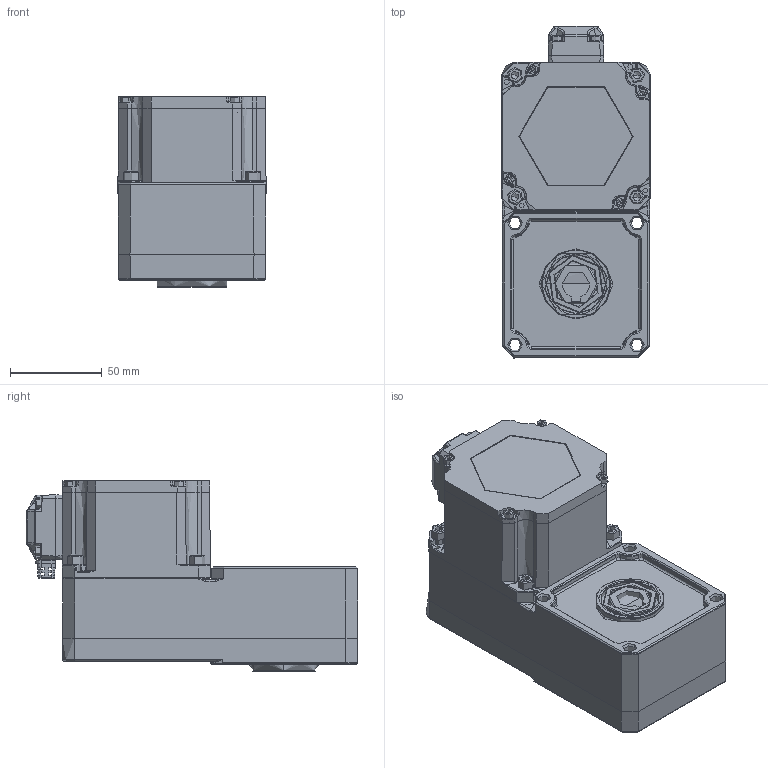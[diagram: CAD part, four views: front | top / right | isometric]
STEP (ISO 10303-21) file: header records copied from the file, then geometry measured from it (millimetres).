
FILE_DESCRIPTION (( 'STEP AP203' ), '1' );
FILE_NAME ('4GU100L2×°Åä.STEP', '2023-10-06T02:04:56', ( 'Owner' ), ( 'Organization' ), 'SwSTEP 2.0', 'SolidWorks 2019', '' );
FILE_SCHEMA (( 'CONFIG_CONTROL_DESIGN' ));
Length unit declared in the file: millimetre
Products named in the file (29): _____X2_52079664_X0_-_X2_62C94F-779.stp^____ADMI242897E1RCCY_ASM.stp___________________.stp____________________80K2______(2)_80K2______.STEP; hexagon socket head cap screws gb_GB_FASTENER_SCREWS_HSHCS M4X16-N; _____X2_52079664_X0_-_X2_62C94F-775.stp^____ADMI242897E1RCCY_ASM.stp___________________.stp____________________80K2______(2)_80K2______.STEP; 諾陑; 80 K2______________^80K2______(2)_80K2______.STEP; 4GUL2-505-001m#眊裔; __________________^80K2______(2)_80K2______.STEP; ____CHAMFER1-774.stp^____ADMI242897E1RCCY_ASM.stp___________________.stp____________________80K2______(2)_80K2______.STEP; ____ADMI242897E1RCCY_ASM.stp^__________________.stp____________________80K2______(2)_80K2______.STEP; ____CHAMFER1-771.stp^____ADMI242897E1RCCY_ASM.stp___________________.stp____________________80K2______(2)_80K2______.STEP; ____CHAMFER1-770.stp^____ADMI242897E1RCCY_ASM.stp___________________.stp____________________80K2______(2)_80K2______.STEP; 蚾饜极7; __________________.stp^___________________80K2______(2)_80K2______.STEP; 80 K2____________^80K2______(2)_80K2______.STEP; ____MANIFOLD_SOLID_BREP_781.stp^____ADMI242897E1RCCY_ASM.stp___________________.stp____________________80K2______(2)_80K2______.STEP; ____CHAMFER1-773.stp^____ADMI242897E1RCCY_ASM.stp___________________.stp____________________80K2______(2)_80K2______.STEP; _____X2_52079664_X0_-_X2_62C94F-778.stp^____ADMI242897E1RCCY_ASM.stp___________________.stp____________________80K2______(2)_80K2______.STEP; hexagon socket head cap screws gb_GB_FASTENER_SCREWS_HSHCS M3X6-N^80K2______(2)_80K2______.STEP; _____X2_52079664_X0_-_X2_62C94F-777.stp^____ADMI242897E1RCCY_ASM.stp___________________.stp____________________80K2______(2)_80K2______.STEP; 80K2蚾饜极(2).STEP; ____CHAMFER1-772.stp^____ADMI242897E1RCCY_ASM.stp___________________.stp____________________80K2______(2)_80K2______.STEP; 80K2______(2)^80K2______.STEP; 4GU100L2蚾饜; 4GUL2-504-001m#眊极; ____CHAMFER1-776.stp^____ADMI242897E1RCCY_ASM.stp___________________.stp____________________80K2______(2)_80K2______.STEP; ____1.stp^__________________.stp____________________80K2______(2)_80K2______.STEP; 蚐猾; ____MANIFOLD_SOLID_BREP_780.stp^____ADMI242897E1RCCY_ASM.stp___________________.stp____________________80K2______(2)_80K2______.STEP; hexagon socket head cap screws gb_GB_FASTENER_SCREWS_HSHCS M5X16-N
Assembly tree (40 placements, depth 7):
  4GU100L2蚾饜
    80K2蚾饜极(2).STEP
      80K2______(2)^80K2______.STEP
        __________________^80K2______(2)_80K2______.STEP
          __________________.stp^___________________80K2______(2)_80K2______.STEP
            ____ADMI242897E1RCCY_ASM.stp^__________________.stp____________________80K2______(2)_80K2______.STEP
              ____CHAMFER1-770.stp^____ADMI242897E1RCCY_ASM.stp___________________.stp____________________80K2______(2)_80K2______.STEP
              ____CHAMFER1-771.stp^____ADMI242897E1RCCY_ASM.stp___________________.stp____________________80K2______(2)_80K2______.STEP
              ____CHAMFER1-772.stp^____ADMI242897E1RCCY_ASM.stp___________________.stp____________________80K2______(2)_80K2______.STEP
              ____CHAMFER1-773.stp^____ADMI242897E1RCCY_ASM.stp___________________.stp____________________80K2______(2)_80K2______.STEP
              ____CHAMFER1-774.stp^____ADMI242897E1RCCY_ASM.stp___________________.stp____________________80K2______(2)_80K2______.STEP
              _____X2_52079664_X0_-_X2_62C94F-775.stp^____ADMI242897E1RCCY_ASM.stp___________________.stp____________________80K2______(2)_80K2______.STEP
              ____CHAMFER1-776.stp^____ADMI242897E1RCCY_ASM.stp___________________.stp____________________80K2______(2)_80K2______.STEP
              _____X2_52079664_X0_-_X2_62C94F-777.stp^____ADMI242897E1RCCY_ASM.stp___________________.stp____________________80K2______(2)_80K2______.STEP
              _____X2_52079664_X0_-_X2_62C94F-778.stp^____ADMI242897E1RCCY_ASM.stp___________________.stp____________________80K2______(2)_80K2______.STEP
              _____X2_52079664_X0_-_X2_62C94F-779.stp^____ADMI242897E1RCCY_ASM.stp___________________.stp____________________80K2______(2)_80K2______.STEP
              ____MANIFOLD_SOLID_BREP_780.stp^____ADMI242897E1RCCY_ASM.stp___________________.stp____________________80K2______(2)_80K2______.STEP
              ____MANIFOLD_SOLID_BREP_781.stp^____ADMI242897E1RCCY_ASM.stp___________________.stp____________________80K2______(2)_80K2______.STEP
            ____1.stp^__________________.stp____________________80K2______(2)_80K2______.STEP
        80 K2______________^80K2______(2)_80K2______.STEP
        80 K2____________^80K2______(2)_80K2______.STEP
        hexagon socket head cap screws gb_GB_FASTENER_SCREWS_HSHCS M3X6-N^80K2______(2)_80K2______.STEP  x4
    蚾饜极7
      4GUL2-505-001m#眊裔
      諾陑
      蚐猾  x2
      4GUL2-504-001m#眊极
      hexagon socket head cap screws gb_GB_FASTENER_SCREWS_HSHCS M4X16-N  x6
      hexagon socket head cap screws gb_GB_FASTENER_SCREWS_HSHCS M5X16-N  x4
Bounding box: 80.82 x 180.83 x 104 mm (x, y, z)
Topology: 33 solids, 35 shells, 2822 faces, 7406 edges, 4584 vertices
Faces by surface type: plane 1317, cylinder 673, cone 327, bspline 296, torus 154, sphere 55
Entity records: 96514 total; most frequent: CARTESIAN_POINT 31603, ORIENTED_EDGE 13409, DIRECTION 12195, EDGE_CURVE 6705, AXIS2_PLACEMENT_3D 4249, VERTEX_POINT 4208, VECTOR 3697, LINE 3697
